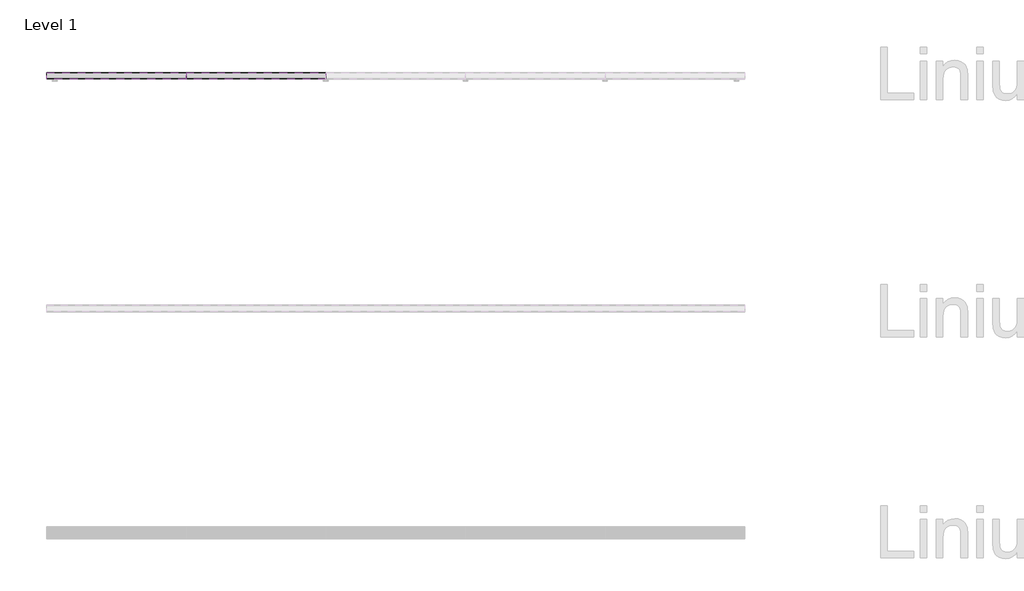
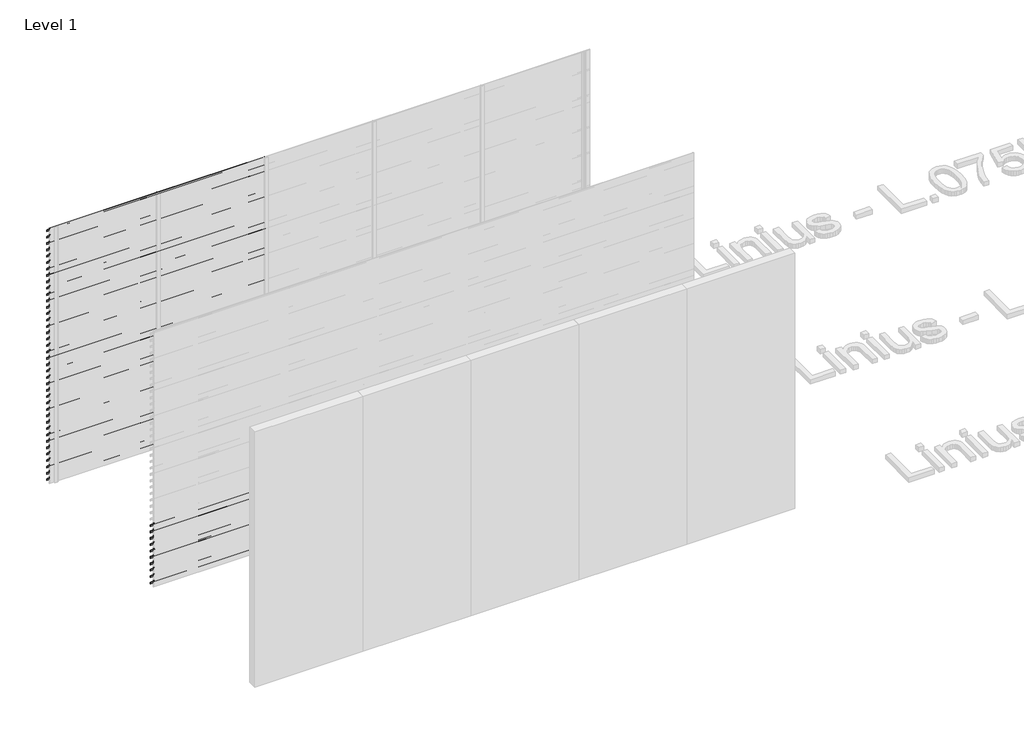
# One storey, part 31 of 55: 85 proxies.
"""IFC4 building model written with IfcOpenShell, lengths in millimetres."""

import ifcopenshell
import ifcopenshell.guid

model = None  # the IFC model being written
_history = None  # IfcOwnerHistory: only IFC2X3 demands one
_inside = {}  # id of a spatial element -> (the spatial element, [elements in it])
_under = {}  # id of a project, library or spatial element -> (it, [spatial elements below it])
_declared = {}  # id of a project -> (the project, [libraries it declares])
_typed = {}  # id of a type object -> (the type object, [elements of that type])
_made_of = {}  # id of a material, layer set ... -> (it, [elements and type objects made of it])


def new_model(schema):
    """Start an empty IFC model of exactly this schema.

    Asked for "IFC4X3", IfcOpenShell would pick the latest addendum, in which some entities
    have other attributes; the version numbers below select the first issue.
    IFC2X3 requires an IfcOwnerHistory on every rooted entity: one is made here for all.
    """
    global model, _history
    if schema == "IFC4X3":
        model = ifcopenshell.file(schema_version=(4, 3, 0, 0))
    else:
        model = ifcopenshell.file(schema=schema)
    _inside.clear()
    _under.clear()
    _declared.clear()
    _typed.clear()
    _made_of.clear()
    _history = None
    if model.schema == "IFC2X3":
        org = make("IfcOrganization", Name="unknown")
        user = make(
            "IfcPersonAndOrganization",
            ThePerson=make("IfcPerson", FamilyName="unknown"),
            TheOrganization=org,
        )
        app = make(
            "IfcApplication",
            ApplicationDeveloper=org,
            Version="unknown",
            ApplicationFullName="unknown",
            ApplicationIdentifier="unknown",
        )
        _history = make(
            "IfcOwnerHistory",
            OwningUser=user,
            OwningApplication=app,
            ChangeAction="ADDED",
            CreationDate=0,
        )
    return model


def make(cls, **values):
    """One entity of the class cls with the attributes given. An attribute that is None is left unset."""
    return model.create_entity(
        cls, **{name: value for name, value in values.items() if value is not None}
    )


def rooted(cls, **values):
    """An entity with a GlobalId (a new one), such as an element, a storey or a relation."""
    return make(cls, GlobalId=ifcopenshell.guid.new(), OwnerHistory=_history, **values)


def si_unit(unit_type, name, prefix=None):
    """IfcSIUnit, for example si_unit("LENGTHUNIT", "METRE", prefix="MILLI")."""
    return make("IfcSIUnit", UnitType=unit_type, Prefix=prefix, Name=name)


def assignment(units):
    """IfcUnitAssignment: the units of a project."""
    return None if units is None else make("IfcUnitAssignment", Units=units)


def point(xyz):
    """IfcCartesianPoint."""
    return None if xyz is None else make("IfcCartesianPoint", Coordinates=xyz)


def direction(xyz):
    """IfcDirection."""
    return None if xyz is None else make("IfcDirection", DirectionRatios=xyz)


def frame(location, z_axis=None, x_axis=None):
    """IfcAxis2Placement3D, a coordinate frame: its origin and axes. An axis left out is left unset."""
    return make(
        "IfcAxis2Placement3D",
        Location=point(location),
        Axis=direction(z_axis),
        RefDirection=direction(x_axis),
    )


def origin():
    """The frame at (0, 0, 0) with its axes left unset."""
    return frame((0.0, 0.0, 0.0))


def place(relative_to, where):
    """IfcLocalPlacement: puts the frame where relative to a parent placement (None: the world)."""
    return make(
        "IfcLocalPlacement", PlacementRelTo=relative_to, RelativePlacement=where
    )


def context(
    kind, dimensions, precision=None, world=None, true_north=None, identifier=None
):
    """IfcGeometricRepresentationContext, for example the 3D "Model" context."""
    return make(
        "IfcGeometricRepresentationContext",
        ContextIdentifier=identifier,
        ContextType=kind,
        CoordinateSpaceDimension=dimensions,
        Precision=precision,
        WorldCoordinateSystem=world,
        TrueNorth=true_north,
    )


def project(units=None, contexts=None):
    """IfcProject with its units and contexts."""
    return rooted(
        "IfcProject",
        Name="project",
        RepresentationContexts=contexts,
        UnitsInContext=assignment(units),
    )


def spatial(cls, under=None, at=None, **own):
    """A site, building, storey or space (cls), placed at a placement, below another one or the project."""
    s = rooted(cls, ObjectPlacement=at, **own)
    if under is not None:
        _under.setdefault(under.id(), (under, []))[1].append(s)
    return s


def polyline(points):
    """IfcPolyline through the points."""
    return make("IfcPolyline", Points=[point(p) for p in points])


def outline(outer, holes=None, kind="AREA"):
    """IfcArbitraryClosedProfileDef: a profile drawn as a closed curve; with holes, ...WithVoids."""
    if holes is None:
        return make("IfcArbitraryClosedProfileDef", ProfileType=kind, OuterCurve=outer)
    return make(
        "IfcArbitraryProfileDefWithVoids",
        ProfileType=kind,
        OuterCurve=outer,
        InnerCurves=holes,
    )


def extrude(swept, where, along, depth):
    """IfcExtrudedAreaSolid: the profile swept, set in the frame where, extruded along a direction by depth."""
    return make(
        "IfcExtrudedAreaSolid",
        SweptArea=swept,
        Position=where,
        ExtrudedDirection=direction(along),
        Depth=depth,
    )


def shape(context_of_items, identifier, shape_type, items):
    """IfcShapeRepresentation: the items that make up one representation, for example the "Body"."""
    return make(
        "IfcShapeRepresentation",
        ContextOfItems=context_of_items,
        RepresentationIdentifier=identifier,
        RepresentationType=shape_type,
        Items=items,
    )


def made_of(thing, what):
    """Note that an element or type object is made of a material, layer set ...; save() writes the relation."""
    if what is not None:
        _made_of.setdefault(what.id(), (what, []))[1].append(thing)
    return thing


def element(
    cls,
    number,
    at=None,
    inside=None,
    cuts=None,
    type_object=None,
    material=None,
    context=None,
    identifier="Body",
    shape_type=None,
    held_by="IfcProductDefinitionShape",
    body=None,
    shapes=None,
    **own,
):
    """One element of the class cls, such as IfcWall. Its Tag is "e" and its number.

    at: its placement. inside: the storey or other place that contains it. cuts: it is an
    opening in that element (IfcRelVoidsElement). A single representation is given by context,
    identifier, shape_type and body (its items); several are given by shapes. held_by: the class
    of the entity that holds the representations. save() writes the other relations.
    """
    e = rooted(cls, Tag="e%d" % number, ObjectPlacement=at, **own)
    if body is not None:
        shapes = [shape(context, identifier, shape_type, body)]
    if shapes is not None:
        e.Representation = make(held_by, Representations=shapes)
    if inside is not None:
        _inside.setdefault(inside.id(), (inside, []))[1].append(e)
    if cuts is not None:
        rooted(
            "IfcRelVoidsElement", RelatingBuildingElement=cuts, RelatedOpeningElement=e
        )
    if type_object is not None:
        _typed.setdefault(type_object.id(), (type_object, []))[1].append(e)
    return made_of(e, material)


def aggregate(whole, parts):
    """IfcRelAggregates: a whole, such as a stair, and the parts it consists of."""
    return rooted("IfcRelAggregates", RelatingObject=whole, RelatedObjects=parts)


def save(model, path):
    """Write the relations noted so far, then the file.

    IfcRelAggregates (storeys below a building ...), IfcRelContainedInSpatialStructure (elements
    in a storey), IfcRelDefinesByType, IfcRelAssociatesMaterial and IfcRelDeclares: one each for
    every whole, place, type object, material and project.
    """
    for whole, parts in _under.values():
        aggregate(whole, parts)
    for where, things in _inside.values():
        rooted(
            "IfcRelContainedInSpatialStructure",
            RelatedElements=things,
            RelatingStructure=where,
        )
    for kind, things in _typed.values():
        rooted("IfcRelDefinesByType", RelatedObjects=things, RelatingType=kind)
    for what, things in _made_of.values():
        rooted("IfcRelAssociatesMaterial", RelatedObjects=things, RelatingMaterial=what)
    for by, libraries in _declared.values():
        rooted("IfcRelDeclares", RelatingContext=by, RelatedDefinitions=libraries)
    model.write(path)


model = new_model("IFC4")

# Units and contexts
model_context = context("Model", 3, world=origin())
ifc_project = project(units=[si_unit("LENGTHUNIT", "METRE", prefix="MILLI")], contexts=[model_context])

# Site, building, storey
site = spatial("IfcSite", under=ifc_project)
building = spatial("IfcBuilding", under=site)
storey = spatial("IfcBuildingStorey", under=building, Name="Level 1", Elevation=0.0)

# Proxies
placement = place(None, origin())
element("IfcBuildingElementProxy", 1, Name="Wall Sweeps", at=placement, inside=storey, context=model_context, shape_type="SweptSolid", body=[
    extrude(outline(polyline([(44081.0540136, 2943.5), (44081.0540136, 2923.5), (44079.8040136, 2924.2216933), (44079.8040136, 2942.7872415), (44026.0540136, 2980.3158044), (44026.0540136, 3000.0), (44027.3040136, 3000.0), (44027.3040136, 2981.0285629), (44081.0540136, 2943.5)])), frame((466.6208097, 0.0, 0.0), z_axis=(1.0, 0.0, 0.0), x_axis=(0.0, 1.0, 0.0)), (0.0, 0.0, 1.0), 1200.0000002),
])
element("IfcBuildingElementProxy", 2, Name="Wall Sweeps", at=placement, inside=storey, context=model_context, shape_type="SweptSolid", body=[
    extrude(outline(polyline([(44081.0540136, 2868.5), (44081.0540136, 2848.5), (44079.8040136, 2849.2216933), (44079.8040136, 2867.7872415), (44026.0540136, 2905.3158044), (44026.0540136, 2925.0), (44027.3040136, 2925.0), (44027.3040136, 2906.0285629), (44081.0540136, 2868.5)])), frame((466.6208097, 0.0, 0.0), z_axis=(1.0, 0.0, 0.0), x_axis=(0.0, 1.0, 0.0)), (0.0, 0.0, 1.0), 1200.0000002),
])
element("IfcBuildingElementProxy", 3, Name="Wall Sweeps", at=placement, inside=storey, context=model_context, shape_type="SweptSolid", body=[
    extrude(outline(polyline([(44081.0540136, 2793.5), (44081.0540136, 2773.5), (44079.8040136, 2774.2216933), (44079.8040136, 2792.7872415), (44026.0540136, 2830.3158044), (44026.0540136, 2850.0), (44027.3040136, 2850.0), (44027.3040136, 2831.0285629), (44081.0540136, 2793.5)])), frame((466.6208097, 0.0, 0.0), z_axis=(1.0, 0.0, 0.0), x_axis=(0.0, 1.0, 0.0)), (0.0, 0.0, 1.0), 1200.0000002),
])
element("IfcBuildingElementProxy", 4, Name="Wall Sweeps", at=placement, inside=storey, context=model_context, shape_type="SweptSolid", body=[
    extrude(outline(polyline([(44081.0540136, 2718.5), (44081.0540136, 2698.5), (44079.8040136, 2699.2216933), (44079.8040136, 2717.7872415), (44026.0540136, 2755.3158044), (44026.0540136, 2775.0), (44027.3040136, 2775.0), (44027.3040136, 2756.0285629), (44081.0540136, 2718.5)])), frame((466.6208097, 0.0, 0.0), z_axis=(1.0, 0.0, 0.0), x_axis=(0.0, 1.0, 0.0)), (0.0, 0.0, 1.0), 1200.0000002),
])
element("IfcBuildingElementProxy", 5, Name="Wall Sweeps", at=placement, inside=storey, context=model_context, shape_type="SweptSolid", body=[
    extrude(outline(polyline([(44081.0540136, 2643.5), (44081.0540136, 2623.5), (44079.8040136, 2624.2216933), (44079.8040136, 2642.7872415), (44026.0540136, 2680.3158044), (44026.0540136, 2700.0), (44027.3040136, 2700.0), (44027.3040136, 2681.0285629), (44081.0540136, 2643.5)])), frame((466.6208097, 0.0, 0.0), z_axis=(1.0, 0.0, 0.0), x_axis=(0.0, 1.0, 0.0)), (0.0, 0.0, 1.0), 1200.0000002),
])
element("IfcBuildingElementProxy", 6, Name="Wall Sweeps", at=placement, inside=storey, context=model_context, shape_type="SweptSolid", body=[
    extrude(outline(polyline([(44081.0540136, 2568.5), (44081.0540136, 2548.5), (44079.8040136, 2549.2216933), (44079.8040136, 2567.7872415), (44026.0540136, 2605.3158044), (44026.0540136, 2625.0), (44027.3040136, 2625.0), (44027.3040136, 2606.0285629), (44081.0540136, 2568.5)])), frame((466.6208097, 0.0, 0.0), z_axis=(1.0, 0.0, 0.0), x_axis=(0.0, 1.0, 0.0)), (0.0, 0.0, 1.0), 1200.0000002),
])
element("IfcBuildingElementProxy", 7, Name="Wall Sweeps", at=placement, inside=storey, context=model_context, shape_type="SweptSolid", body=[
    extrude(outline(polyline([(44081.0540136, 2493.5), (44081.0540136, 2473.5), (44079.8040136, 2474.2216933), (44079.8040136, 2492.7872415), (44026.0540136, 2530.3158044), (44026.0540136, 2550.0), (44027.3040136, 2550.0), (44027.3040136, 2531.0285629), (44081.0540136, 2493.5)])), frame((466.6208097, 0.0, 0.0), z_axis=(1.0, 0.0, 0.0), x_axis=(0.0, 1.0, 0.0)), (0.0, 0.0, 1.0), 1200.0000002),
])
element("IfcBuildingElementProxy", 8, Name="Wall Sweeps", at=placement, inside=storey, context=model_context, shape_type="SweptSolid", body=[
    extrude(outline(polyline([(44081.0540136, 2418.5), (44081.0540136, 2398.5), (44079.8040136, 2399.2216933), (44079.8040136, 2417.7872415), (44026.0540136, 2455.3158044), (44026.0540136, 2475.0), (44027.3040136, 2475.0), (44027.3040136, 2456.0285629), (44081.0540136, 2418.5)])), frame((466.6208097, 0.0, 0.0), z_axis=(1.0, 0.0, 0.0), x_axis=(0.0, 1.0, 0.0)), (0.0, 0.0, 1.0), 1200.0000002),
])
element("IfcBuildingElementProxy", 9, Name="Wall Sweeps", at=placement, inside=storey, context=model_context, shape_type="SweptSolid", body=[
    extrude(outline(polyline([(44081.0540136, 2343.5), (44081.0540136, 2323.5), (44079.8040136, 2324.2216933), (44079.8040136, 2342.7872415), (44026.0540136, 2380.3158044), (44026.0540136, 2400.0), (44027.3040136, 2400.0), (44027.3040136, 2381.0285629), (44081.0540136, 2343.5)])), frame((466.6208097, 0.0, 0.0), z_axis=(1.0, 0.0, 0.0), x_axis=(0.0, 1.0, 0.0)), (0.0, 0.0, 1.0), 1200.0000002),
])
element("IfcBuildingElementProxy", 10, Name="Wall Sweeps", at=placement, inside=storey, context=model_context, shape_type="SweptSolid", body=[
    extrude(outline(polyline([(44081.0540136, 2268.5), (44081.0540136, 2248.5), (44079.8040136, 2249.2216933), (44079.8040136, 2267.7872415), (44026.0540136, 2305.3158044), (44026.0540136, 2325.0), (44027.3040136, 2325.0), (44027.3040136, 2306.0285629), (44081.0540136, 2268.5)])), frame((466.6208097, 0.0, 0.0), z_axis=(1.0, 0.0, 0.0), x_axis=(0.0, 1.0, 0.0)), (0.0, 0.0, 1.0), 1200.0000002),
])
element("IfcBuildingElementProxy", 11, Name="Wall Sweeps", at=placement, inside=storey, context=model_context, shape_type="SweptSolid", body=[
    extrude(outline(polyline([(44081.0540136, 2193.5), (44081.0540136, 2173.5), (44079.8040136, 2174.2216933), (44079.8040136, 2192.7872415), (44026.0540136, 2230.3158044), (44026.0540136, 2250.0), (44027.3040136, 2250.0), (44027.3040136, 2231.0285629), (44081.0540136, 2193.5)])), frame((466.6208097, 0.0, 0.0), z_axis=(1.0, 0.0, 0.0), x_axis=(0.0, 1.0, 0.0)), (0.0, 0.0, 1.0), 1200.0000002),
])
element("IfcBuildingElementProxy", 12, Name="Wall Sweeps", at=placement, inside=storey, context=model_context, shape_type="SweptSolid", body=[
    extrude(outline(polyline([(44081.0540136, 2118.5), (44081.0540136, 2098.5), (44079.8040136, 2099.2216933), (44079.8040136, 2117.7872415), (44026.0540136, 2155.3158044), (44026.0540136, 2175.0), (44027.3040136, 2175.0), (44027.3040136, 2156.0285629), (44081.0540136, 2118.5)])), frame((466.6208097, 0.0, 0.0), z_axis=(1.0, 0.0, 0.0), x_axis=(0.0, 1.0, 0.0)), (0.0, 0.0, 1.0), 1200.0000002),
])
element("IfcBuildingElementProxy", 13, Name="Wall Sweeps", at=placement, inside=storey, context=model_context, shape_type="SweptSolid", body=[
    extrude(outline(polyline([(44081.0540136, 2043.5), (44081.0540136, 2023.5), (44079.8040136, 2024.2216933), (44079.8040136, 2042.7872415), (44026.0540136, 2080.3158044), (44026.0540136, 2100.0), (44027.3040136, 2100.0), (44027.3040136, 2081.0285629), (44081.0540136, 2043.5)])), frame((466.6208097, 0.0, 0.0), z_axis=(1.0, 0.0, 0.0), x_axis=(0.0, 1.0, 0.0)), (0.0, 0.0, 1.0), 1200.0000002),
])
element("IfcBuildingElementProxy", 14, Name="Wall Sweeps", at=placement, inside=storey, context=model_context, shape_type="SweptSolid", body=[
    extrude(outline(polyline([(44081.0540136, 1968.5), (44081.0540136, 1948.5), (44079.8040136, 1949.2216933), (44079.8040136, 1967.7872415), (44026.0540136, 2005.3158044), (44026.0540136, 2025.0), (44027.3040136, 2025.0), (44027.3040136, 2006.0285629), (44081.0540136, 1968.5)])), frame((466.6208097, 0.0, 0.0), z_axis=(1.0, 0.0, 0.0), x_axis=(0.0, 1.0, 0.0)), (0.0, 0.0, 1.0), 1200.0000002),
])
element("IfcBuildingElementProxy", 15, Name="Wall Sweeps", at=placement, inside=storey, context=model_context, shape_type="SweptSolid", body=[
    extrude(outline(polyline([(44081.0540136, 1893.5), (44081.0540136, 1873.5), (44079.8040136, 1874.2216933), (44079.8040136, 1892.7872415), (44026.0540136, 1930.3158044), (44026.0540136, 1950.0), (44027.3040136, 1950.0), (44027.3040136, 1931.0285629), (44081.0540136, 1893.5)])), frame((466.6208097, 0.0, 0.0), z_axis=(1.0, 0.0, 0.0), x_axis=(0.0, 1.0, 0.0)), (0.0, 0.0, 1.0), 1200.0000002),
])
element("IfcBuildingElementProxy", 16, Name="Wall Sweeps", at=placement, inside=storey, context=model_context, shape_type="SweptSolid", body=[
    extrude(outline(polyline([(44081.0540136, 1818.5), (44081.0540136, 1798.5), (44079.8040136, 1799.2216933), (44079.8040136, 1817.7872415), (44026.0540136, 1855.3158044), (44026.0540136, 1875.0), (44027.3040136, 1875.0), (44027.3040136, 1856.0285629), (44081.0540136, 1818.5)])), frame((466.6208097, 0.0, 0.0), z_axis=(1.0, 0.0, 0.0), x_axis=(0.0, 1.0, 0.0)), (0.0, 0.0, 1.0), 1200.0000002),
])
element("IfcBuildingElementProxy", 17, Name="Wall Sweeps", at=placement, inside=storey, context=model_context, shape_type="SweptSolid", body=[
    extrude(outline(polyline([(44081.0540136, 1743.5), (44081.0540136, 1723.5), (44079.8040136, 1724.2216933), (44079.8040136, 1742.7872415), (44026.0540136, 1780.3158044), (44026.0540136, 1800.0), (44027.3040136, 1800.0), (44027.3040136, 1781.0285629), (44081.0540136, 1743.5)])), frame((466.6208097, 0.0, 0.0), z_axis=(1.0, 0.0, 0.0), x_axis=(0.0, 1.0, 0.0)), (0.0, 0.0, 1.0), 1200.0000002),
])
element("IfcBuildingElementProxy", 18, Name="Wall Sweeps", at=placement, inside=storey, context=model_context, shape_type="SweptSolid", body=[
    extrude(outline(polyline([(44081.0540136, 1668.5), (44081.0540136, 1648.5), (44079.8040136, 1649.2216933), (44079.8040136, 1667.7872415), (44026.0540136, 1705.3158044), (44026.0540136, 1725.0), (44027.3040136, 1725.0), (44027.3040136, 1706.0285629), (44081.0540136, 1668.5)])), frame((466.6208097, 0.0, 0.0), z_axis=(1.0, 0.0, 0.0), x_axis=(0.0, 1.0, 0.0)), (0.0, 0.0, 1.0), 1200.0000002),
])
element("IfcBuildingElementProxy", 19, Name="Wall Sweeps", at=placement, inside=storey, context=model_context, shape_type="SweptSolid", body=[
    extrude(outline(polyline([(44081.0540136, 1593.5), (44081.0540136, 1573.5), (44079.8040136, 1574.2216933), (44079.8040136, 1592.7872415), (44026.0540136, 1630.3158044), (44026.0540136, 1650.0), (44027.3040136, 1650.0), (44027.3040136, 1631.0285629), (44081.0540136, 1593.5)])), frame((466.6208097, 0.0, 0.0), z_axis=(1.0, 0.0, 0.0), x_axis=(0.0, 1.0, 0.0)), (0.0, 0.0, 1.0), 1200.0000002),
])
element("IfcBuildingElementProxy", 20, Name="Wall Sweeps", at=placement, inside=storey, context=model_context, shape_type="SweptSolid", body=[
    extrude(outline(polyline([(44081.0540136, 1518.5), (44081.0540136, 1498.5), (44079.8040136, 1499.2216933), (44079.8040136, 1517.7872415), (44026.0540136, 1555.3158044), (44026.0540136, 1575.0), (44027.3040136, 1575.0), (44027.3040136, 1556.0285629), (44081.0540136, 1518.5)])), frame((466.6208097, 0.0, 0.0), z_axis=(1.0, 0.0, 0.0), x_axis=(0.0, 1.0, 0.0)), (0.0, 0.0, 1.0), 1200.0000002),
])
element("IfcBuildingElementProxy", 21, Name="Wall Sweeps", at=placement, inside=storey, context=model_context, shape_type="SweptSolid", body=[
    extrude(outline(polyline([(44081.0540136, 1443.5), (44081.0540136, 1423.5), (44079.8040136, 1424.2216933), (44079.8040136, 1442.7872415), (44026.0540136, 1480.3158044), (44026.0540136, 1500.0), (44027.3040136, 1500.0), (44027.3040136, 1481.0285629), (44081.0540136, 1443.5)])), frame((466.6208097, 0.0, 0.0), z_axis=(1.0, 0.0, 0.0), x_axis=(0.0, 1.0, 0.0)), (0.0, 0.0, 1.0), 1200.0000002),
])
element("IfcBuildingElementProxy", 22, Name="Wall Sweeps", at=placement, inside=storey, context=model_context, shape_type="SweptSolid", body=[
    extrude(outline(polyline([(44081.0540136, 1368.5), (44081.0540136, 1348.5), (44079.8040136, 1349.2216933), (44079.8040136, 1367.7872415), (44026.0540136, 1405.3158044), (44026.0540136, 1425.0), (44027.3040136, 1425.0), (44027.3040136, 1406.0285629), (44081.0540136, 1368.5)])), frame((466.6208097, 0.0, 0.0), z_axis=(1.0, 0.0, 0.0), x_axis=(0.0, 1.0, 0.0)), (0.0, 0.0, 1.0), 1200.0000002),
])
element("IfcBuildingElementProxy", 23, Name="Wall Sweeps", at=placement, inside=storey, context=model_context, shape_type="SweptSolid", body=[
    extrude(outline(polyline([(44081.0540136, 1293.5), (44081.0540136, 1273.5), (44079.8040136, 1274.2216933), (44079.8040136, 1292.7872415), (44026.0540136, 1330.3158044), (44026.0540136, 1350.0), (44027.3040136, 1350.0), (44027.3040136, 1331.0285629), (44081.0540136, 1293.5)])), frame((466.6208097, 0.0, 0.0), z_axis=(1.0, 0.0, 0.0), x_axis=(0.0, 1.0, 0.0)), (0.0, 0.0, 1.0), 1200.0000002),
])
element("IfcBuildingElementProxy", 24, Name="Wall Sweeps", at=placement, inside=storey, context=model_context, shape_type="SweptSolid", body=[
    extrude(outline(polyline([(44081.0540136, 1218.5), (44081.0540136, 1198.5), (44079.8040136, 1199.2216933), (44079.8040136, 1217.7872415), (44026.0540136, 1255.3158044), (44026.0540136, 1275.0), (44027.3040136, 1275.0), (44027.3040136, 1256.0285629), (44081.0540136, 1218.5)])), frame((466.6208097, 0.0, 0.0), z_axis=(1.0, 0.0, 0.0), x_axis=(0.0, 1.0, 0.0)), (0.0, 0.0, 1.0), 1200.0000002),
])
element("IfcBuildingElementProxy", 25, Name="Wall Sweeps", at=placement, inside=storey, context=model_context, shape_type="SweptSolid", body=[
    extrude(outline(polyline([(44081.0540136, 1143.5), (44081.0540136, 1123.5), (44079.8040136, 1124.2216933), (44079.8040136, 1142.7872415), (44026.0540136, 1180.3158044), (44026.0540136, 1200.0), (44027.3040136, 1200.0), (44027.3040136, 1181.0285629), (44081.0540136, 1143.5)])), frame((466.6208097, 0.0, 0.0), z_axis=(1.0, 0.0, 0.0), x_axis=(0.0, 1.0, 0.0)), (0.0, 0.0, 1.0), 1200.0000002),
])
element("IfcBuildingElementProxy", 26, Name="Wall Sweeps", at=placement, inside=storey, context=model_context, shape_type="SweptSolid", body=[
    extrude(outline(polyline([(44081.0540136, 1068.5), (44081.0540136, 1048.5), (44079.8040136, 1049.2216933), (44079.8040136, 1067.7872415), (44026.0540136, 1105.3158044), (44026.0540136, 1125.0), (44027.3040136, 1125.0), (44027.3040136, 1106.0285629), (44081.0540136, 1068.5)])), frame((466.6208097, 0.0, 0.0), z_axis=(1.0, 0.0, 0.0), x_axis=(0.0, 1.0, 0.0)), (0.0, 0.0, 1.0), 1200.0000002),
])
element("IfcBuildingElementProxy", 27, Name="Wall Sweeps", at=placement, inside=storey, context=model_context, shape_type="SweptSolid", body=[
    extrude(outline(polyline([(44081.0540136, 993.5), (44081.0540136, 973.5), (44079.8040136, 974.2216933), (44079.8040136, 992.7872415), (44026.0540136, 1030.3158044), (44026.0540136, 1050.0), (44027.3040136, 1050.0), (44027.3040136, 1031.0285629), (44081.0540136, 993.5)])), frame((466.6208097, 0.0, 0.0), z_axis=(1.0, 0.0, 0.0), x_axis=(0.0, 1.0, 0.0)), (0.0, 0.0, 1.0), 1200.0000002),
])
element("IfcBuildingElementProxy", 28, Name="Wall Sweeps", at=placement, inside=storey, context=model_context, shape_type="SweptSolid", body=[
    extrude(outline(polyline([(44081.0540136, 918.5), (44081.0540136, 898.5), (44079.8040136, 899.2216933), (44079.8040136, 917.7872415), (44026.0540136, 955.3158044), (44026.0540136, 975.0), (44027.3040136, 975.0), (44027.3040136, 956.0285629), (44081.0540136, 918.5)])), frame((466.6208097, 0.0, 0.0), z_axis=(1.0, 0.0, 0.0), x_axis=(0.0, 1.0, 0.0)), (0.0, 0.0, 1.0), 1200.0000002),
])
element("IfcBuildingElementProxy", 29, Name="Wall Sweeps", at=placement, inside=storey, context=model_context, shape_type="SweptSolid", body=[
    extrude(outline(polyline([(44081.0540136, 843.5), (44081.0540136, 823.5), (44079.8040136, 824.2216933), (44079.8040136, 842.7872415), (44026.0540136, 880.3158044), (44026.0540136, 900.0), (44027.3040136, 900.0), (44027.3040136, 881.0285629), (44081.0540136, 843.5)])), frame((466.6208097, 0.0, 0.0), z_axis=(1.0, 0.0, 0.0), x_axis=(0.0, 1.0, 0.0)), (0.0, 0.0, 1.0), 1200.0000002),
])
element("IfcBuildingElementProxy", 30, Name="Wall Sweeps", at=placement, inside=storey, context=model_context, shape_type="SweptSolid", body=[
    extrude(outline(polyline([(44081.0540136, 768.5), (44081.0540136, 748.5), (44079.8040136, 749.2216933), (44079.8040136, 767.7872415), (44026.0540136, 805.3158044), (44026.0540136, 825.0), (44027.3040136, 825.0), (44027.3040136, 806.0285629), (44081.0540136, 768.5)])), frame((466.6208097, 0.0, 0.0), z_axis=(1.0, 0.0, 0.0), x_axis=(0.0, 1.0, 0.0)), (0.0, 0.0, 1.0), 1200.0000002),
])
element("IfcBuildingElementProxy", 31, Name="Wall Sweeps", at=placement, inside=storey, context=model_context, shape_type="SweptSolid", body=[
    extrude(outline(polyline([(44081.0540136, 693.5), (44081.0540136, 673.5), (44079.8040136, 674.2216933), (44079.8040136, 692.7872415), (44026.0540136, 730.3158044), (44026.0540136, 750.0), (44027.3040136, 750.0), (44027.3040136, 731.0285629), (44081.0540136, 693.5)])), frame((466.6208097, 0.0, 0.0), z_axis=(1.0, 0.0, 0.0), x_axis=(0.0, 1.0, 0.0)), (0.0, 0.0, 1.0), 1200.0000002),
])
element("IfcBuildingElementProxy", 32, Name="Wall Sweeps", at=placement, inside=storey, context=model_context, shape_type="SweptSolid", body=[
    extrude(outline(polyline([(44081.0540136, 618.5), (44081.0540136, 598.5), (44079.8040136, 599.2216933), (44079.8040136, 617.7872415), (44026.0540136, 655.3158044), (44026.0540136, 675.0), (44027.3040136, 675.0), (44027.3040136, 656.0285629), (44081.0540136, 618.5)])), frame((466.6208097, 0.0, 0.0), z_axis=(1.0, 0.0, 0.0), x_axis=(0.0, 1.0, 0.0)), (0.0, 0.0, 1.0), 1200.0000002),
])
element("IfcBuildingElementProxy", 33, Name="Wall Sweeps", at=placement, inside=storey, context=model_context, shape_type="SweptSolid", body=[
    extrude(outline(polyline([(44081.0540136, 543.5), (44081.0540136, 523.5), (44079.8040136, 524.2216933), (44079.8040136, 542.7872415), (44026.0540136, 580.3158044), (44026.0540136, 600.0), (44027.3040136, 600.0), (44027.3040136, 581.0285629), (44081.0540136, 543.5)])), frame((466.6208097, 0.0, 0.0), z_axis=(1.0, 0.0, 0.0), x_axis=(0.0, 1.0, 0.0)), (0.0, 0.0, 1.0), 1200.0000002),
])
element("IfcBuildingElementProxy", 34, Name="Wall Sweeps", at=placement, inside=storey, context=model_context, shape_type="SweptSolid", body=[
    extrude(outline(polyline([(44081.0540136, 468.5), (44081.0540136, 448.5), (44079.8040136, 449.2216933), (44079.8040136, 467.7872415), (44026.0540136, 505.3158044), (44026.0540136, 525.0), (44027.3040136, 525.0), (44027.3040136, 506.0285629), (44081.0540136, 468.5)])), frame((466.6208097, 0.0, 0.0), z_axis=(1.0, 0.0, 0.0), x_axis=(0.0, 1.0, 0.0)), (0.0, 0.0, 1.0), 1200.0000002),
])
element("IfcBuildingElementProxy", 35, Name="Wall Sweeps", at=placement, inside=storey, context=model_context, shape_type="SweptSolid", body=[
    extrude(outline(polyline([(44081.0540136, 393.5), (44081.0540136, 373.5), (44079.8040136, 374.2216933), (44079.8040136, 392.7872415), (44026.0540136, 430.3158044), (44026.0540136, 450.0), (44027.3040136, 450.0), (44027.3040136, 431.0285629), (44081.0540136, 393.5)])), frame((466.6208097, 0.0, 0.0), z_axis=(1.0, 0.0, 0.0), x_axis=(0.0, 1.0, 0.0)), (0.0, 0.0, 1.0), 1200.0000002),
])
element("IfcBuildingElementProxy", 36, Name="Wall Sweeps", at=placement, inside=storey, context=model_context, shape_type="SweptSolid", body=[
    extrude(outline(polyline([(44081.0540136, 318.5), (44081.0540136, 298.5), (44079.8040136, 299.2216933), (44079.8040136, 317.7872415), (44026.0540136, 355.3158044), (44026.0540136, 375.0), (44027.3040136, 375.0), (44027.3040136, 356.0285629), (44081.0540136, 318.5)])), frame((466.6208097, 0.0, 0.0), z_axis=(1.0, 0.0, 0.0), x_axis=(0.0, 1.0, 0.0)), (0.0, 0.0, 1.0), 1200.0000002),
])
element("IfcBuildingElementProxy", 37, Name="Wall Sweeps", at=placement, inside=storey, context=model_context, shape_type="SweptSolid", body=[
    extrude(outline(polyline([(44081.0540136, 243.5), (44081.0540136, 223.5), (44079.8040136, 224.2216933), (44079.8040136, 242.7872415), (44026.0540136, 280.3158044), (44026.0540136, 300.0), (44027.3040136, 300.0), (44027.3040136, 281.0285629), (44081.0540136, 243.5)])), frame((466.6208097, 0.0, 0.0), z_axis=(1.0, 0.0, 0.0), x_axis=(0.0, 1.0, 0.0)), (0.0, 0.0, 1.0), 1200.0000002),
])
element("IfcBuildingElementProxy", 38, Name="Wall Sweeps", at=placement, inside=storey, context=model_context, shape_type="SweptSolid", body=[
    extrude(outline(polyline([(44081.0540136, 168.5), (44081.0540136, 148.5), (44079.8040136, 149.2216933), (44079.8040136, 167.7872415), (44026.0540136, 205.3158044), (44026.0540136, 225.0), (44027.3040136, 225.0), (44027.3040136, 206.0285629), (44081.0540136, 168.5)])), frame((466.6208097, 0.0, 0.0), z_axis=(1.0, 0.0, 0.0), x_axis=(0.0, 1.0, 0.0)), (0.0, 0.0, 1.0), 1200.0000002),
])
element("IfcBuildingElementProxy", 39, Name="Wall Sweeps", at=placement, inside=storey, context=model_context, shape_type="SweptSolid", body=[
    extrude(outline(polyline([(44081.0540136, 93.5), (44081.0540136, 73.5), (44079.8040136, 74.2216933), (44079.8040136, 92.7872415), (44026.0540136, 130.3158044), (44026.0540136, 150.0), (44027.3040136, 150.0), (44027.3040136, 131.0285629), (44081.0540136, 93.5)])), frame((466.6208097, 0.0, 0.0), z_axis=(1.0, 0.0, 0.0), x_axis=(0.0, 1.0, 0.0)), (0.0, 0.0, 1.0), 1200.0000002),
])
element("IfcBuildingElementProxy", 40, Name="Wall Sweeps", at=placement, inside=storey, context=model_context, shape_type="SweptSolid", body=[
    extrude(outline(polyline([(44081.0540136, 18.5), (44081.0540136, -1.5), (44079.8040136, -0.7783067), (44079.8040136, 17.7872415), (44026.0540136, 55.3158044), (44026.0540136, 75.0), (44027.3040136, 75.0), (44027.3040136, 56.0285629), (44081.0540136, 18.5)])), frame((466.6208097, 0.0, 0.0), z_axis=(1.0, 0.0, 0.0), x_axis=(0.0, 1.0, 0.0)), (0.0, 0.0, 1.0), 1200.0000002),
])
element("IfcBuildingElementProxy", 41, Name="Wall Sweeps", at=placement, inside=storey, context=model_context, shape_type="SweptSolid", body=[
    extrude(outline(polyline([(44081.0540136, 2943.5), (44081.0540136, 2923.5), (44079.8040136, 2924.2216933), (44079.8040136, 2942.7872415), (44026.0540136, 2980.3158044), (44026.0540136, 3000.0), (44027.3040136, 3000.0), (44027.3040136, 2981.0285629), (44081.0540136, 2943.5)])), frame((1666.6208099, 0.0, 0.0), z_axis=(1.0, 0.0, 0.0), x_axis=(0.0, 1.0, 0.0)), (0.0, 0.0, 1.0), 1199.9999999),
])
element("IfcBuildingElementProxy", 42, Name="Wall Sweeps", at=placement, inside=storey, context=model_context, shape_type="SweptSolid", body=[
    extrude(outline(polyline([(44081.0540136, 2868.5), (44081.0540136, 2848.5), (44079.8040136, 2849.2216933), (44079.8040136, 2867.7872415), (44026.0540136, 2905.3158044), (44026.0540136, 2925.0), (44027.3040136, 2925.0), (44027.3040136, 2906.0285629), (44081.0540136, 2868.5)])), frame((1666.6208099, 0.0, 0.0), z_axis=(1.0, 0.0, 0.0), x_axis=(0.0, 1.0, 0.0)), (0.0, 0.0, 1.0), 1199.9999999),
])
element("IfcBuildingElementProxy", 43, Name="Wall Sweeps", at=placement, inside=storey, context=model_context, shape_type="SweptSolid", body=[
    extrude(outline(polyline([(44081.0540136, 2793.5), (44081.0540136, 2773.5), (44079.8040136, 2774.2216933), (44079.8040136, 2792.7872415), (44026.0540136, 2830.3158044), (44026.0540136, 2850.0), (44027.3040136, 2850.0), (44027.3040136, 2831.0285629), (44081.0540136, 2793.5)])), frame((1666.6208099, 0.0, 0.0), z_axis=(1.0, 0.0, 0.0), x_axis=(0.0, 1.0, 0.0)), (0.0, 0.0, 1.0), 1199.9999999),
])
element("IfcBuildingElementProxy", 44, Name="Wall Sweeps", at=placement, inside=storey, context=model_context, shape_type="SweptSolid", body=[
    extrude(outline(polyline([(44081.0540136, 2718.5), (44081.0540136, 2698.5), (44079.8040136, 2699.2216933), (44079.8040136, 2717.7872415), (44026.0540136, 2755.3158044), (44026.0540136, 2775.0), (44027.3040136, 2775.0), (44027.3040136, 2756.0285629), (44081.0540136, 2718.5)])), frame((1666.6208099, 0.0, 0.0), z_axis=(1.0, 0.0, 0.0), x_axis=(0.0, 1.0, 0.0)), (0.0, 0.0, 1.0), 1199.9999999),
])
element("IfcBuildingElementProxy", 45, Name="Wall Sweeps", at=placement, inside=storey, context=model_context, shape_type="SweptSolid", body=[
    extrude(outline(polyline([(44081.0540136, 2643.5), (44081.0540136, 2623.5), (44079.8040136, 2624.2216933), (44079.8040136, 2642.7872415), (44026.0540136, 2680.3158044), (44026.0540136, 2700.0), (44027.3040136, 2700.0), (44027.3040136, 2681.0285629), (44081.0540136, 2643.5)])), frame((1666.6208099, 0.0, 0.0), z_axis=(1.0, 0.0, 0.0), x_axis=(0.0, 1.0, 0.0)), (0.0, 0.0, 1.0), 1199.9999999),
])
element("IfcBuildingElementProxy", 46, Name="Wall Sweeps", at=placement, inside=storey, context=model_context, shape_type="SweptSolid", body=[
    extrude(outline(polyline([(44081.0540136, 2568.5), (44081.0540136, 2548.5), (44079.8040136, 2549.2216933), (44079.8040136, 2567.7872415), (44026.0540136, 2605.3158044), (44026.0540136, 2625.0), (44027.3040136, 2625.0), (44027.3040136, 2606.0285629), (44081.0540136, 2568.5)])), frame((1666.6208099, 0.0, 0.0), z_axis=(1.0, 0.0, 0.0), x_axis=(0.0, 1.0, 0.0)), (0.0, 0.0, 1.0), 1199.9999999),
])
element("IfcBuildingElementProxy", 47, Name="Wall Sweeps", at=placement, inside=storey, context=model_context, shape_type="SweptSolid", body=[
    extrude(outline(polyline([(44081.0540136, 2493.5), (44081.0540136, 2473.5), (44079.8040136, 2474.2216933), (44079.8040136, 2492.7872415), (44026.0540136, 2530.3158044), (44026.0540136, 2550.0), (44027.3040136, 2550.0), (44027.3040136, 2531.0285629), (44081.0540136, 2493.5)])), frame((1666.6208099, 0.0, 0.0), z_axis=(1.0, 0.0, 0.0), x_axis=(0.0, 1.0, 0.0)), (0.0, 0.0, 1.0), 1199.9999999),
])
element("IfcBuildingElementProxy", 48, Name="Wall Sweeps", at=placement, inside=storey, context=model_context, shape_type="SweptSolid", body=[
    extrude(outline(polyline([(44081.0540136, 2418.5), (44081.0540136, 2398.5), (44079.8040136, 2399.2216933), (44079.8040136, 2417.7872415), (44026.0540136, 2455.3158044), (44026.0540136, 2475.0), (44027.3040136, 2475.0), (44027.3040136, 2456.0285629), (44081.0540136, 2418.5)])), frame((1666.6208099, 0.0, 0.0), z_axis=(1.0, 0.0, 0.0), x_axis=(0.0, 1.0, 0.0)), (0.0, 0.0, 1.0), 1199.9999999),
])
element("IfcBuildingElementProxy", 49, Name="Wall Sweeps", at=placement, inside=storey, context=model_context, shape_type="SweptSolid", body=[
    extrude(outline(polyline([(44081.0540136, 2343.5), (44081.0540136, 2323.5), (44079.8040136, 2324.2216933), (44079.8040136, 2342.7872415), (44026.0540136, 2380.3158044), (44026.0540136, 2400.0), (44027.3040136, 2400.0), (44027.3040136, 2381.0285629), (44081.0540136, 2343.5)])), frame((1666.6208099, 0.0, 0.0), z_axis=(1.0, 0.0, 0.0), x_axis=(0.0, 1.0, 0.0)), (0.0, 0.0, 1.0), 1199.9999999),
])
element("IfcBuildingElementProxy", 50, Name="Wall Sweeps", at=placement, inside=storey, context=model_context, shape_type="SweptSolid", body=[
    extrude(outline(polyline([(44081.0540136, 2268.5), (44081.0540136, 2248.5), (44079.8040136, 2249.2216933), (44079.8040136, 2267.7872415), (44026.0540136, 2305.3158044), (44026.0540136, 2325.0), (44027.3040136, 2325.0), (44027.3040136, 2306.0285629), (44081.0540136, 2268.5)])), frame((1666.6208099, 0.0, 0.0), z_axis=(1.0, 0.0, 0.0), x_axis=(0.0, 1.0, 0.0)), (0.0, 0.0, 1.0), 1199.9999999),
])
element("IfcBuildingElementProxy", 51, Name="Wall Sweeps", at=placement, inside=storey, context=model_context, shape_type="SweptSolid", body=[
    extrude(outline(polyline([(44081.0540136, 2193.5), (44081.0540136, 2173.5), (44079.8040136, 2174.2216933), (44079.8040136, 2192.7872415), (44026.0540136, 2230.3158044), (44026.0540136, 2250.0), (44027.3040136, 2250.0), (44027.3040136, 2231.0285629), (44081.0540136, 2193.5)])), frame((1666.6208099, 0.0, 0.0), z_axis=(1.0, 0.0, 0.0), x_axis=(0.0, 1.0, 0.0)), (0.0, 0.0, 1.0), 1199.9999999),
])
element("IfcBuildingElementProxy", 52, Name="Wall Sweeps", at=placement, inside=storey, context=model_context, shape_type="SweptSolid", body=[
    extrude(outline(polyline([(44081.0540136, 2118.5), (44081.0540136, 2098.5), (44079.8040136, 2099.2216933), (44079.8040136, 2117.7872415), (44026.0540136, 2155.3158044), (44026.0540136, 2175.0), (44027.3040136, 2175.0), (44027.3040136, 2156.0285629), (44081.0540136, 2118.5)])), frame((1666.6208099, 0.0, 0.0), z_axis=(1.0, 0.0, 0.0), x_axis=(0.0, 1.0, 0.0)), (0.0, 0.0, 1.0), 1199.9999999),
])
element("IfcBuildingElementProxy", 53, Name="Wall Sweeps", at=placement, inside=storey, context=model_context, shape_type="SweptSolid", body=[
    extrude(outline(polyline([(44081.0540136, 2043.5), (44081.0540136, 2023.5), (44079.8040136, 2024.2216933), (44079.8040136, 2042.7872415), (44026.0540136, 2080.3158044), (44026.0540136, 2100.0), (44027.3040136, 2100.0), (44027.3040136, 2081.0285629), (44081.0540136, 2043.5)])), frame((1666.6208099, 0.0, 0.0), z_axis=(1.0, 0.0, 0.0), x_axis=(0.0, 1.0, 0.0)), (0.0, 0.0, 1.0), 1199.9999999),
])
element("IfcBuildingElementProxy", 54, Name="Wall Sweeps", at=placement, inside=storey, context=model_context, shape_type="SweptSolid", body=[
    extrude(outline(polyline([(44081.0540136, 1968.5), (44081.0540136, 1948.5), (44079.8040136, 1949.2216933), (44079.8040136, 1967.7872415), (44026.0540136, 2005.3158044), (44026.0540136, 2025.0), (44027.3040136, 2025.0), (44027.3040136, 2006.0285629), (44081.0540136, 1968.5)])), frame((1666.6208099, 0.0, 0.0), z_axis=(1.0, 0.0, 0.0), x_axis=(0.0, 1.0, 0.0)), (0.0, 0.0, 1.0), 1199.9999999),
])
element("IfcBuildingElementProxy", 55, Name="Wall Sweeps", at=placement, inside=storey, context=model_context, shape_type="SweptSolid", body=[
    extrude(outline(polyline([(44081.0540136, 1893.5), (44081.0540136, 1873.5), (44079.8040136, 1874.2216933), (44079.8040136, 1892.7872415), (44026.0540136, 1930.3158044), (44026.0540136, 1950.0), (44027.3040136, 1950.0), (44027.3040136, 1931.0285629), (44081.0540136, 1893.5)])), frame((1666.6208099, 0.0, 0.0), z_axis=(1.0, 0.0, 0.0), x_axis=(0.0, 1.0, 0.0)), (0.0, 0.0, 1.0), 1199.9999999),
])
element("IfcBuildingElementProxy", 56, Name="Wall Sweeps", at=placement, inside=storey, context=model_context, shape_type="SweptSolid", body=[
    extrude(outline(polyline([(44081.0540136, 1818.5), (44081.0540136, 1798.5), (44079.8040136, 1799.2216933), (44079.8040136, 1817.7872415), (44026.0540136, 1855.3158044), (44026.0540136, 1875.0), (44027.3040136, 1875.0), (44027.3040136, 1856.0285629), (44081.0540136, 1818.5)])), frame((1666.6208099, 0.0, 0.0), z_axis=(1.0, 0.0, 0.0), x_axis=(0.0, 1.0, 0.0)), (0.0, 0.0, 1.0), 1199.9999999),
])
element("IfcBuildingElementProxy", 57, Name="Wall Sweeps", at=placement, inside=storey, context=model_context, shape_type="SweptSolid", body=[
    extrude(outline(polyline([(44081.0540136, 1743.5), (44081.0540136, 1723.5), (44079.8040136, 1724.2216933), (44079.8040136, 1742.7872415), (44026.0540136, 1780.3158044), (44026.0540136, 1800.0), (44027.3040136, 1800.0), (44027.3040136, 1781.0285629), (44081.0540136, 1743.5)])), frame((1666.6208099, 0.0, 0.0), z_axis=(1.0, 0.0, 0.0), x_axis=(0.0, 1.0, 0.0)), (0.0, 0.0, 1.0), 1199.9999999),
])
element("IfcBuildingElementProxy", 58, Name="Wall Sweeps", at=placement, inside=storey, context=model_context, shape_type="SweptSolid", body=[
    extrude(outline(polyline([(44081.0540136, 1668.5), (44081.0540136, 1648.5), (44079.8040136, 1649.2216933), (44079.8040136, 1667.7872415), (44026.0540136, 1705.3158044), (44026.0540136, 1725.0), (44027.3040136, 1725.0), (44027.3040136, 1706.0285629), (44081.0540136, 1668.5)])), frame((1666.6208099, 0.0, 0.0), z_axis=(1.0, 0.0, 0.0), x_axis=(0.0, 1.0, 0.0)), (0.0, 0.0, 1.0), 1199.9999999),
])
element("IfcBuildingElementProxy", 59, Name="Wall Sweeps", at=placement, inside=storey, context=model_context, shape_type="SweptSolid", body=[
    extrude(outline(polyline([(44081.0540136, 1593.5), (44081.0540136, 1573.5), (44079.8040136, 1574.2216933), (44079.8040136, 1592.7872415), (44026.0540136, 1630.3158044), (44026.0540136, 1650.0), (44027.3040136, 1650.0), (44027.3040136, 1631.0285629), (44081.0540136, 1593.5)])), frame((1666.6208099, 0.0, 0.0), z_axis=(1.0, 0.0, 0.0), x_axis=(0.0, 1.0, 0.0)), (0.0, 0.0, 1.0), 1199.9999999),
])
element("IfcBuildingElementProxy", 60, Name="Wall Sweeps", at=placement, inside=storey, context=model_context, shape_type="SweptSolid", body=[
    extrude(outline(polyline([(44081.0540136, 1518.5), (44081.0540136, 1498.5), (44079.8040136, 1499.2216933), (44079.8040136, 1517.7872415), (44026.0540136, 1555.3158044), (44026.0540136, 1575.0), (44027.3040136, 1575.0), (44027.3040136, 1556.0285629), (44081.0540136, 1518.5)])), frame((1666.6208099, 0.0, 0.0), z_axis=(1.0, 0.0, 0.0), x_axis=(0.0, 1.0, 0.0)), (0.0, 0.0, 1.0), 1199.9999999),
])
element("IfcBuildingElementProxy", 61, Name="Wall Sweeps", at=placement, inside=storey, context=model_context, shape_type="SweptSolid", body=[
    extrude(outline(polyline([(44081.0540136, 1443.5), (44081.0540136, 1423.5), (44079.8040136, 1424.2216933), (44079.8040136, 1442.7872415), (44026.0540136, 1480.3158044), (44026.0540136, 1500.0), (44027.3040136, 1500.0), (44027.3040136, 1481.0285629), (44081.0540136, 1443.5)])), frame((1666.6208099, 0.0, 0.0), z_axis=(1.0, 0.0, 0.0), x_axis=(0.0, 1.0, 0.0)), (0.0, 0.0, 1.0), 1199.9999999),
])
element("IfcBuildingElementProxy", 62, Name="Wall Sweeps", at=placement, inside=storey, context=model_context, shape_type="SweptSolid", body=[
    extrude(outline(polyline([(44081.0540136, 1368.5), (44081.0540136, 1348.5), (44079.8040136, 1349.2216933), (44079.8040136, 1367.7872415), (44026.0540136, 1405.3158044), (44026.0540136, 1425.0), (44027.3040136, 1425.0), (44027.3040136, 1406.0285629), (44081.0540136, 1368.5)])), frame((1666.6208099, 0.0, 0.0), z_axis=(1.0, 0.0, 0.0), x_axis=(0.0, 1.0, 0.0)), (0.0, 0.0, 1.0), 1199.9999999),
])
element("IfcBuildingElementProxy", 63, Name="Wall Sweeps", at=placement, inside=storey, context=model_context, shape_type="SweptSolid", body=[
    extrude(outline(polyline([(44081.0540136, 1293.5), (44081.0540136, 1273.5), (44079.8040136, 1274.2216933), (44079.8040136, 1292.7872415), (44026.0540136, 1330.3158044), (44026.0540136, 1350.0), (44027.3040136, 1350.0), (44027.3040136, 1331.0285629), (44081.0540136, 1293.5)])), frame((1666.6208099, 0.0, 0.0), z_axis=(1.0, 0.0, 0.0), x_axis=(0.0, 1.0, 0.0)), (0.0, 0.0, 1.0), 1199.9999999),
])
element("IfcBuildingElementProxy", 64, Name="Wall Sweeps", at=placement, inside=storey, context=model_context, shape_type="SweptSolid", body=[
    extrude(outline(polyline([(44081.0540136, 1218.5), (44081.0540136, 1198.5), (44079.8040136, 1199.2216933), (44079.8040136, 1217.7872415), (44026.0540136, 1255.3158044), (44026.0540136, 1275.0), (44027.3040136, 1275.0), (44027.3040136, 1256.0285629), (44081.0540136, 1218.5)])), frame((1666.6208099, 0.0, 0.0), z_axis=(1.0, 0.0, 0.0), x_axis=(0.0, 1.0, 0.0)), (0.0, 0.0, 1.0), 1199.9999999),
])
element("IfcBuildingElementProxy", 65, Name="Wall Sweeps", at=placement, inside=storey, context=model_context, shape_type="SweptSolid", body=[
    extrude(outline(polyline([(44081.0540136, 1143.5), (44081.0540136, 1123.5), (44079.8040136, 1124.2216933), (44079.8040136, 1142.7872415), (44026.0540136, 1180.3158044), (44026.0540136, 1200.0), (44027.3040136, 1200.0), (44027.3040136, 1181.0285629), (44081.0540136, 1143.5)])), frame((1666.6208099, 0.0, 0.0), z_axis=(1.0, 0.0, 0.0), x_axis=(0.0, 1.0, 0.0)), (0.0, 0.0, 1.0), 1199.9999999),
])
element("IfcBuildingElementProxy", 66, Name="Wall Sweeps", at=placement, inside=storey, context=model_context, shape_type="SweptSolid", body=[
    extrude(outline(polyline([(44081.0540136, 1068.5), (44081.0540136, 1048.5), (44079.8040136, 1049.2216933), (44079.8040136, 1067.7872415), (44026.0540136, 1105.3158044), (44026.0540136, 1125.0), (44027.3040136, 1125.0), (44027.3040136, 1106.0285629), (44081.0540136, 1068.5)])), frame((1666.6208099, 0.0, 0.0), z_axis=(1.0, 0.0, 0.0), x_axis=(0.0, 1.0, 0.0)), (0.0, 0.0, 1.0), 1199.9999999),
])
element("IfcBuildingElementProxy", 67, Name="Wall Sweeps", at=placement, inside=storey, context=model_context, shape_type="SweptSolid", body=[
    extrude(outline(polyline([(44081.0540136, 993.5), (44081.0540136, 973.5), (44079.8040136, 974.2216933), (44079.8040136, 992.7872415), (44026.0540136, 1030.3158044), (44026.0540136, 1050.0), (44027.3040136, 1050.0), (44027.3040136, 1031.0285629), (44081.0540136, 993.5)])), frame((1666.6208099, 0.0, 0.0), z_axis=(1.0, 0.0, 0.0), x_axis=(0.0, 1.0, 0.0)), (0.0, 0.0, 1.0), 1199.9999999),
])
element("IfcBuildingElementProxy", 68, Name="Wall Sweeps", at=placement, inside=storey, context=model_context, shape_type="SweptSolid", body=[
    extrude(outline(polyline([(44081.0540136, 918.5), (44081.0540136, 898.5), (44079.8040136, 899.2216933), (44079.8040136, 917.7872415), (44026.0540136, 955.3158044), (44026.0540136, 975.0), (44027.3040136, 975.0), (44027.3040136, 956.0285629), (44081.0540136, 918.5)])), frame((1666.6208099, 0.0, 0.0), z_axis=(1.0, 0.0, 0.0), x_axis=(0.0, 1.0, 0.0)), (0.0, 0.0, 1.0), 1199.9999999),
])
element("IfcBuildingElementProxy", 69, Name="Wall Sweeps", at=placement, inside=storey, context=model_context, shape_type="SweptSolid", body=[
    extrude(outline(polyline([(44081.0540136, 843.5), (44081.0540136, 823.5), (44079.8040136, 824.2216933), (44079.8040136, 842.7872415), (44026.0540136, 880.3158044), (44026.0540136, 900.0), (44027.3040136, 900.0), (44027.3040136, 881.0285629), (44081.0540136, 843.5)])), frame((1666.6208099, 0.0, 0.0), z_axis=(1.0, 0.0, 0.0), x_axis=(0.0, 1.0, 0.0)), (0.0, 0.0, 1.0), 1199.9999999),
])
element("IfcBuildingElementProxy", 70, Name="Wall Sweeps", at=placement, inside=storey, context=model_context, shape_type="SweptSolid", body=[
    extrude(outline(polyline([(44081.0540136, 768.5), (44081.0540136, 748.5), (44079.8040136, 749.2216933), (44079.8040136, 767.7872415), (44026.0540136, 805.3158044), (44026.0540136, 825.0), (44027.3040136, 825.0), (44027.3040136, 806.0285629), (44081.0540136, 768.5)])), frame((1666.6208099, 0.0, 0.0), z_axis=(1.0, 0.0, 0.0), x_axis=(0.0, 1.0, 0.0)), (0.0, 0.0, 1.0), 1199.9999999),
])
element("IfcBuildingElementProxy", 71, Name="Wall Sweeps", at=placement, inside=storey, context=model_context, shape_type="SweptSolid", body=[
    extrude(outline(polyline([(44081.0540136, 693.5), (44081.0540136, 673.5), (44079.8040136, 674.2216933), (44079.8040136, 692.7872415), (44026.0540136, 730.3158044), (44026.0540136, 750.0), (44027.3040136, 750.0), (44027.3040136, 731.0285629), (44081.0540136, 693.5)])), frame((1666.6208099, 0.0, 0.0), z_axis=(1.0, 0.0, 0.0), x_axis=(0.0, 1.0, 0.0)), (0.0, 0.0, 1.0), 1199.9999999),
])
element("IfcBuildingElementProxy", 72, Name="Wall Sweeps", at=placement, inside=storey, context=model_context, shape_type="SweptSolid", body=[
    extrude(outline(polyline([(44081.0540136, 618.5), (44081.0540136, 598.5), (44079.8040136, 599.2216933), (44079.8040136, 617.7872415), (44026.0540136, 655.3158044), (44026.0540136, 675.0), (44027.3040136, 675.0), (44027.3040136, 656.0285629), (44081.0540136, 618.5)])), frame((1666.6208099, 0.0, 0.0), z_axis=(1.0, 0.0, 0.0), x_axis=(0.0, 1.0, 0.0)), (0.0, 0.0, 1.0), 1199.9999999),
])
element("IfcBuildingElementProxy", 73, Name="Wall Sweeps", at=placement, inside=storey, context=model_context, shape_type="SweptSolid", body=[
    extrude(outline(polyline([(44081.0540136, 543.5), (44081.0540136, 523.5), (44079.8040136, 524.2216933), (44079.8040136, 542.7872415), (44026.0540136, 580.3158044), (44026.0540136, 600.0), (44027.3040136, 600.0), (44027.3040136, 581.0285629), (44081.0540136, 543.5)])), frame((1666.6208099, 0.0, 0.0), z_axis=(1.0, 0.0, 0.0), x_axis=(0.0, 1.0, 0.0)), (0.0, 0.0, 1.0), 1199.9999999),
])
element("IfcBuildingElementProxy", 74, Name="Wall Sweeps", at=placement, inside=storey, context=model_context, shape_type="SweptSolid", body=[
    extrude(outline(polyline([(44081.0540136, 468.5), (44081.0540136, 448.5), (44079.8040136, 449.2216933), (44079.8040136, 467.7872415), (44026.0540136, 505.3158044), (44026.0540136, 525.0), (44027.3040136, 525.0), (44027.3040136, 506.0285629), (44081.0540136, 468.5)])), frame((1666.6208099, 0.0, 0.0), z_axis=(1.0, 0.0, 0.0), x_axis=(0.0, 1.0, 0.0)), (0.0, 0.0, 1.0), 1199.9999999),
])
element("IfcBuildingElementProxy", 75, Name="Wall Sweeps", at=placement, inside=storey, context=model_context, shape_type="SweptSolid", body=[
    extrude(outline(polyline([(44081.0540136, 393.5), (44081.0540136, 373.5), (44079.8040136, 374.2216933), (44079.8040136, 392.7872415), (44026.0540136, 430.3158044), (44026.0540136, 450.0), (44027.3040136, 450.0), (44027.3040136, 431.0285629), (44081.0540136, 393.5)])), frame((1666.6208099, 0.0, 0.0), z_axis=(1.0, 0.0, 0.0), x_axis=(0.0, 1.0, 0.0)), (0.0, 0.0, 1.0), 1199.9999999),
])
element("IfcBuildingElementProxy", 76, Name="Wall Sweeps", at=placement, inside=storey, context=model_context, shape_type="SweptSolid", body=[
    extrude(outline(polyline([(42081.0540136, 693.5), (42081.0540136, 673.5), (42079.8040136, 674.2216933), (42079.8040136, 692.7872415), (42026.0540136, 730.3158044), (42026.0540136, 750.0), (42027.3040136, 750.0), (42027.3040136, 731.0285629), (42081.0540136, 693.5)])), frame((466.6208097, 0.0, 0.0), z_axis=(1.0, 0.0, 0.0), x_axis=(0.0, 1.0, 0.0)), (0.0, 0.0, 1.0), 6000.0),
])
element("IfcBuildingElementProxy", 77, Name="Wall Sweeps", at=placement, inside=storey, context=model_context, shape_type="SweptSolid", body=[
    extrude(outline(polyline([(42081.0540136, 618.5), (42081.0540136, 598.5), (42079.8040136, 599.2216933), (42079.8040136, 617.7872415), (42026.0540136, 655.3158044), (42026.0540136, 675.0), (42027.3040136, 675.0), (42027.3040136, 656.0285629), (42081.0540136, 618.5)])), frame((466.6208097, 0.0, 0.0), z_axis=(1.0, 0.0, 0.0), x_axis=(0.0, 1.0, 0.0)), (0.0, 0.0, 1.0), 6000.0),
])
element("IfcBuildingElementProxy", 78, Name="Wall Sweeps", at=placement, inside=storey, context=model_context, shape_type="SweptSolid", body=[
    extrude(outline(polyline([(42081.0540136, 543.5), (42081.0540136, 523.5), (42079.8040136, 524.2216933), (42079.8040136, 542.7872415), (42026.0540136, 580.3158044), (42026.0540136, 600.0), (42027.3040136, 600.0), (42027.3040136, 581.0285629), (42081.0540136, 543.5)])), frame((466.6208097, 0.0, 0.0), z_axis=(1.0, 0.0, 0.0), x_axis=(0.0, 1.0, 0.0)), (0.0, 0.0, 1.0), 6000.0),
])
element("IfcBuildingElementProxy", 79, Name="Wall Sweeps", at=placement, inside=storey, context=model_context, shape_type="SweptSolid", body=[
    extrude(outline(polyline([(42081.0540136, 468.5), (42081.0540136, 448.5), (42079.8040136, 449.2216933), (42079.8040136, 467.7872415), (42026.0540136, 505.3158044), (42026.0540136, 525.0), (42027.3040136, 525.0), (42027.3040136, 506.0285629), (42081.0540136, 468.5)])), frame((466.6208097, 0.0, 0.0), z_axis=(1.0, 0.0, 0.0), x_axis=(0.0, 1.0, 0.0)), (0.0, 0.0, 1.0), 6000.0),
])
element("IfcBuildingElementProxy", 80, Name="Wall Sweeps", at=placement, inside=storey, context=model_context, shape_type="SweptSolid", body=[
    extrude(outline(polyline([(42081.0540136, 393.5), (42081.0540136, 373.5), (42079.8040136, 374.2216933), (42079.8040136, 392.7872415), (42026.0540136, 430.3158044), (42026.0540136, 450.0), (42027.3040136, 450.0), (42027.3040136, 431.0285629), (42081.0540136, 393.5)])), frame((466.6208097, 0.0, 0.0), z_axis=(1.0, 0.0, 0.0), x_axis=(0.0, 1.0, 0.0)), (0.0, 0.0, 1.0), 6000.0),
])
element("IfcBuildingElementProxy", 81, Name="Wall Sweeps", at=placement, inside=storey, context=model_context, shape_type="SweptSolid", body=[
    extrude(outline(polyline([(42081.0540136, 318.5), (42081.0540136, 298.5), (42079.8040136, 299.2216933), (42079.8040136, 317.7872415), (42026.0540136, 355.3158044), (42026.0540136, 375.0), (42027.3040136, 375.0), (42027.3040136, 356.0285629), (42081.0540136, 318.5)])), frame((466.6208097, 0.0, 0.0), z_axis=(1.0, 0.0, 0.0), x_axis=(0.0, 1.0, 0.0)), (0.0, 0.0, 1.0), 6000.0),
])
element("IfcBuildingElementProxy", 82, Name="Wall Sweeps", at=placement, inside=storey, context=model_context, shape_type="SweptSolid", body=[
    extrude(outline(polyline([(42081.0540136, 243.5), (42081.0540136, 223.5), (42079.8040136, 224.2216933), (42079.8040136, 242.7872415), (42026.0540136, 280.3158044), (42026.0540136, 300.0), (42027.3040136, 300.0), (42027.3040136, 281.0285629), (42081.0540136, 243.5)])), frame((466.6208097, 0.0, 0.0), z_axis=(1.0, 0.0, 0.0), x_axis=(0.0, 1.0, 0.0)), (0.0, 0.0, 1.0), 6000.0),
])
element("IfcBuildingElementProxy", 83, Name="Wall Sweeps", at=placement, inside=storey, context=model_context, shape_type="SweptSolid", body=[
    extrude(outline(polyline([(42081.0540136, 168.5), (42081.0540136, 148.5), (42079.8040136, 149.2216933), (42079.8040136, 167.7872415), (42026.0540136, 205.3158044), (42026.0540136, 225.0), (42027.3040136, 225.0), (42027.3040136, 206.0285629), (42081.0540136, 168.5)])), frame((466.6208097, 0.0, 0.0), z_axis=(1.0, 0.0, 0.0), x_axis=(0.0, 1.0, 0.0)), (0.0, 0.0, 1.0), 6000.0),
])
element("IfcBuildingElementProxy", 84, Name="Wall Sweeps", at=placement, inside=storey, context=model_context, shape_type="SweptSolid", body=[
    extrude(outline(polyline([(42081.0540136, 93.5), (42081.0540136, 73.5), (42079.8040136, 74.2216933), (42079.8040136, 92.7872415), (42026.0540136, 130.3158044), (42026.0540136, 150.0), (42027.3040136, 150.0), (42027.3040136, 131.0285629), (42081.0540136, 93.5)])), frame((466.6208097, 0.0, 0.0), z_axis=(1.0, 0.0, 0.0), x_axis=(0.0, 1.0, 0.0)), (0.0, 0.0, 1.0), 6000.0),
])
element("IfcBuildingElementProxy", 85, Name="Wall Sweeps", at=placement, inside=storey, context=model_context, shape_type="SweptSolid", body=[
    extrude(outline(polyline([(42081.0540136, 18.5), (42081.0540136, -1.5), (42079.8040136, -0.7783067), (42079.8040136, 17.7872415), (42026.0540136, 55.3158044), (42026.0540136, 75.0), (42027.3040136, 75.0), (42027.3040136, 56.0285629), (42081.0540136, 18.5)])), frame((466.6208097, 0.0, 0.0), z_axis=(1.0, 0.0, 0.0), x_axis=(0.0, 1.0, 0.0)), (0.0, 0.0, 1.0), 6000.0),
])

save(model, "model.ifc")
